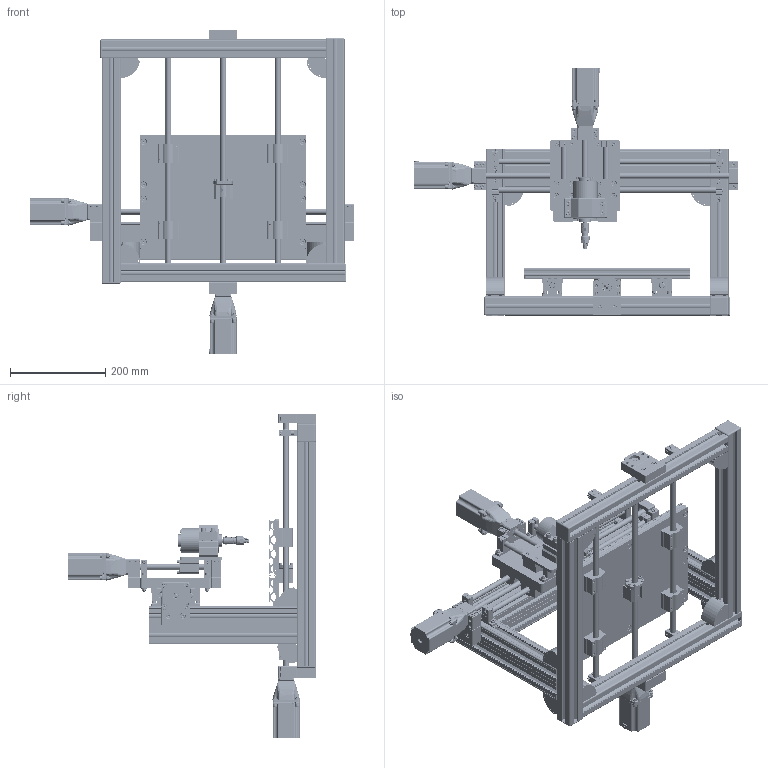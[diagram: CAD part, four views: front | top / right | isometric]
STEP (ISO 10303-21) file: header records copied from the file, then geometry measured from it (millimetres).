
FILE_DESCRIPTION (( 'STEP AP214' ), '1' );
FILE_NAME ('Desktop CNC.STEP', '2021-09-23T22:01:05', ( '' ), ( '' ), 'SwSTEP 2.0', 'SolidWorks 2020', '' );
FILE_SCHEMA (( 'AUTOMOTIVE_DESIGN' ));
Length unit declared in the file: millimetre
Products named in the file (83): housing_sce_1_0_uu_0; screw_Valor predeterminado; socket head cap screw_dins_DIN 912 M6 x 40 --- 24N; corpo-cromo_Valor predeterminado; socket head cap screw_din_DIN 912 M5 x 35 --- 22N; Tabla Montajý; socket head cap screw 4762_din_EN ISO 4762 M8 x 16 - 16N; toothed lock washer 1_din_DIN 6797-A8.4; _sfu1204 nut; mancau-frontal_Valor predeterminado; 15x120_Sigma_Domyslna; Tabla; 40x40 GENÝÞ KÖÞE BAÐLANTI KAPAK; socket countersunk head screw_din_DIN 7991 - M4 x 16 --- 11.6N; Z Ray Altlýðý; SFU-1204 - 516; socket head cap screw_dinssss_DIN 912 M6 x 30 --- 30N; socket head cap screw_dinssss_DIN 912 M5 x 16 --- 16N; hex flange nut_din_Hexagon Flange Nut DIN 6923 - M5 - N; 40X40_470mm Sigma; eixo-spindle_Valor predeterminado; toothed lock washer 1_din_DIN 6797-A5.3; socket head cap screw_din_DIN 912 M6 x 50 --- 24N; Stepper motor NEMA 23HS7430___ _________; _bk10; socket head cap screw_dinssss_DIN 912 M4 x 16 --- 16N; 40x80_310 mm Sigma; Stepper Motor Flexible Coupling 6,35 x 8 mm; 12 Mm Krom Kaplý Ýndüksiyonlu Taþlanmýþ Mil; 40X40_Sigma Kapagi; Z Eksen Ray Mili; socket head cap screw_dins_DIN 912 M5 x 16 --- 16N; plain washer grade a_din_Washer DIN 125 - A 5.3; 40x40 GENÝÞ KÖÞE BAÐLANTI; M6 - T8 Kanal Somun; socket head cap screw_din_DIN 912 M4 x 25 --- 25N; Sfu1204 nut housing; socket head cap screw_dinssss_DIN 912 M6 x 25 --- 25N; Desktop CNC; socket head cap screw_dins_DIN 912 M6 x 35 --- 24N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
Assembly tree (366 placements, depth 4):
  Desktop CNC
    Taban Ýskelet
      40X40_470mm Sigma  x4
      40X40_Sigma Kapagi  x4
      _bk10
      _bf10_with cosmetic bearing
      BK10 - Sabitleyici
      socket head cap screw_dins_DIN 912 M6 x 40 --- 24N  x4
      M6 - T10 Kanal Somun  x4
      socket head cap screw_dins_DIN 912 M6 x 35 --- 24N  x2
      K籚e Montaj  x8
        40x40 GENÝÞ KÖÞE BAÐLANTI
        M8 - T10 Kanal Somun
        toothed lock washer 1_din_DIN 6797-A8.4
        socket head cap screw 4762_din_EN ISO 4762 M8 x 16 - 16N
        40x40 GENÝÞ KÖÞE BAÐLANTI KAPAK
      40x80_310 mm Sigma  x2
      BF10 - Sabitleyici
      socket head cap screw_dinssss_DIN 912 M6 x 25 --- 25N  x2
      socket head cap screw_dinssss_DIN 912 M6 x 45 --- 24N  x2
    XY Yatak
      Mil Tutucu
        SK12
        socket head cap screw_dins_DIN 912 M5 x 16 --- 16N  x2
        toothed lock washer 1_din_DIN 6797-A5.3  x2
        M5 - T10 Kanal Somun  x2
        socket head cap screw_din16_DIN 912 M4 x 16 --- 16N
      Mil Tutucu
        SK12
        socket head cap screw_dins_DIN 912 M5 x 16 --- 16N  x2
        toothed lock washer 1_din_DIN 6797-A5.3  x2
        M5 - T10 Kanal Somun  x2
        socket head cap screw_din16_DIN 912 M4 x 16 --- 16N
      Mil Tutucu
        SK12
        socket head cap screw_dins_DIN 912 M5 x 16 --- 16N  x2
        toothed lock washer 1_din_DIN 6797-A5.3  x2
        M5 - T10 Kanal Somun  x2
        socket head cap screw_din16_DIN 912 M4 x 16 --- 16N
      Mil Tutucu
        SK12
        socket head cap screw_dins_DIN 912 M5 x 16 --- 16N  x2
        toothed lock washer 1_din_DIN 6797-A5.3  x2
        M5 - T10 Kanal Somun  x2
        socket head cap screw_din16_DIN 912 M4 x 16 --- 16N
      12 Mm Krom Kaplý Ýndüksiyonlu Taþlanmýþ Mil  x2
    Tabla Montajý
      housing_sce_1_0_uu_0  x4
      Tabla
      socket countersunk head screw_din30_DIN 7991 - M5 x 30 --- 24.8N  x16
      15x120_Sigma_Domyslna  x2
      M6 - T8 Kanal Somun  x12
      socket countersunk head screw_dinss_DIN 7991 - M6 x 12 --- 5.7N  x12
      socket countersunk head screw_dinss_DIN 7991 - M4 x 16 --- 11.6N  x4
      _sfu1204 nut
      Sfu1204 nut housing
      plain washer large_din_Washer DIN 9021 - 4.3  x4
      socket head cap screw_dinssss_DIN 912 M4 x 20 --- 20N  x6
    SFU-1204 - 516  x2
    Stepper motor NEMA 23HS7430___ _________  x3
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Bounding box: 680.6 x 519.6 x 680.6 mm (x, y, z)
Volume: 7283255.4 mm3; surface area: 3808661.4 mm2
Topology: 492 solids, 492 shells, 21056 faces, 52287 edges, 31951 vertices
Faces by surface type: plane 9658, cylinder 6275, cone 2534, bspline 1130, torus 1091, sphere 368
Entity records: 233749 total; most frequent: CARTESIAN_POINT 96024, ORIENTED_EDGE 27844, DIRECTION 26446, EDGE_CURVE 13922, AXIS2_PLACEMENT_3D 9558, VERTEX_POINT 8714, LINE 7330, VECTOR 7330
